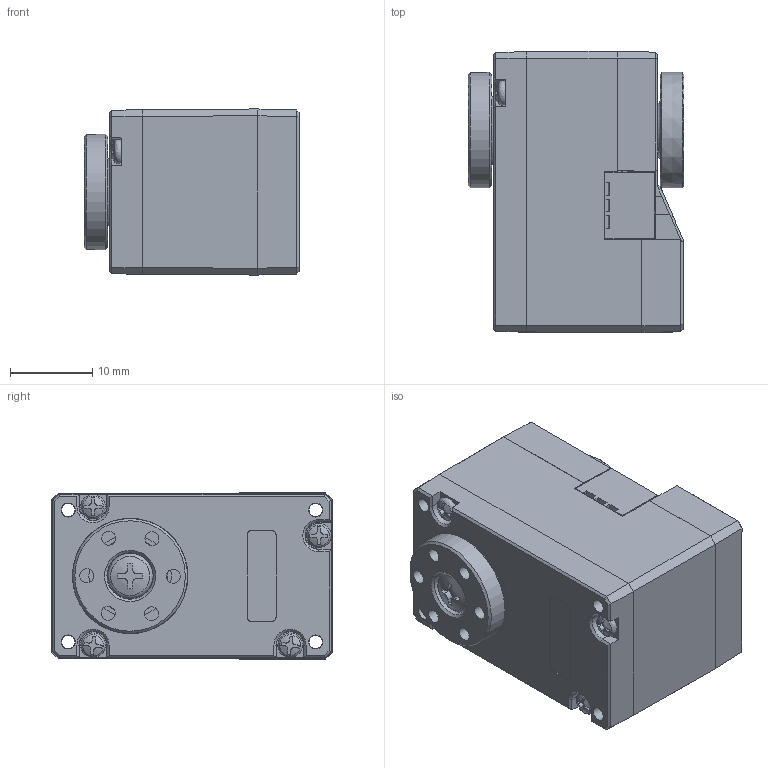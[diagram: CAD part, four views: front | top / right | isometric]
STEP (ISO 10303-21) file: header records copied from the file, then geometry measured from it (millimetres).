
FILE_DESCRIPTION (( 'STEP AP203' ), '1' );
FILE_NAME ('嗆儂S288潠趙耀倰.STEP', '2026-09-21T02:02:40', ( '' ), ( '' ), 'SwSTEP 2.0', 'SolidWorks 2023', '' );
FILE_SCHEMA (( 'CONFIG_CONTROL_DESIGN' ));
Products named in the file (1): 舵机S288简化模型
Bounding box: 26.2 x 34.13 x 20.15 mm (x, y, z)
Surface area: 10578.4 mm2 (no closed solid volume)
Topology: 0 solids, 14 shells, 1257 faces, 3321 edges, 2196 vertices
Faces by surface type: plane 820, bspline 208, cylinder 121, cone 101, torus 7
Full cylindrical faces by diameter (mm): 0.7 x16, 1.2 x1, 1.4 x12, 1.6 x4, 1.7 x28, 1.75 x4, 2 x1, 2.6 x1, 6 x1, 10 x1, 14 x1
Entity records: 39900 total; most frequent: CARTESIAN_POINT 10703, ORIENTED_EDGE 6336, DIRECTION 5083, EDGE_CURVE 3171, LINE 2195, VECTOR 2195, VERTEX_POINT 2144, EDGE_LOOP 1531
